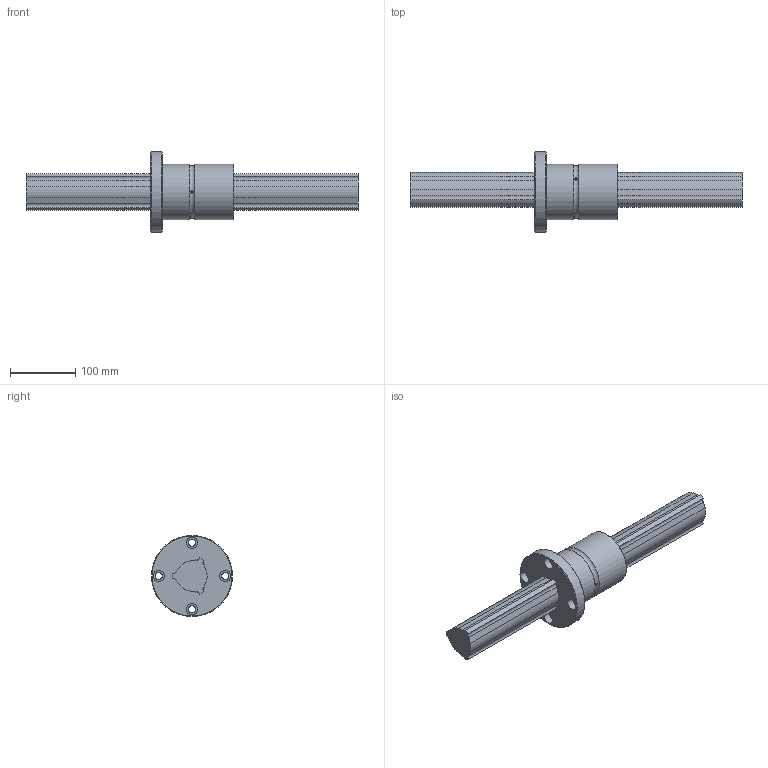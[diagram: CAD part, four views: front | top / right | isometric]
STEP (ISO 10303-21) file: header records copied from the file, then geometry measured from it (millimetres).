
FILE_DESCRIPTION(/* description */ ('STEP AP203'),/* implementation_level */ '2;1');
FILE_NAME(/* name */ 'LBF60+508L(508190.50)',/* time_stamp */ '2024-05-28T03:41:19+02:00',/* author */ ('License CC BY-ND 4.0'),/* organization */ ('CADENAS'),/* preprocessor_version */ 'ST-DEVELOPER v19.3',/* originating_system */ 'PARTsolutions',/* authorisation */ ' ');
FILE_SCHEMA (('CONFIG_CONTROL_DESIGN'));
Length unit declared in the file: millimetre
Products named in the file (3): LBF60+508L(508190.50); LBF601508 Spline Shaft; LBF60 Nut
Assembly tree (2 placements, depth 2):
  LBF60+508L(508190.50)
    LBF601508 Spline Shaft
    LBF60 Nut
Bounding box: 508 x 124 x 124 mm (x, y, z)
Volume: 1555927.2 mm3; surface area: 174131.3 mm2
Topology: 2 solids, 2 shells, 66 faces, 164 edges, 110 vertices
Faces by surface type: cylinder 38, plane 24, torus 2, cone 2
Full cylindrical faces by diameter (mm): 4 x3, 11 x4, 17.5 x4, 85 x2, 124 x1
Entity records: 1969 total; most frequent: DIRECTION 350, CARTESIAN_POINT 344, ORIENTED_EDGE 278, AXIS2_PLACEMENT_3D 145, EDGE_CURVE 139, VERTEX_POINT 103, EDGE_LOOP 102, FACE_BOUND 102
